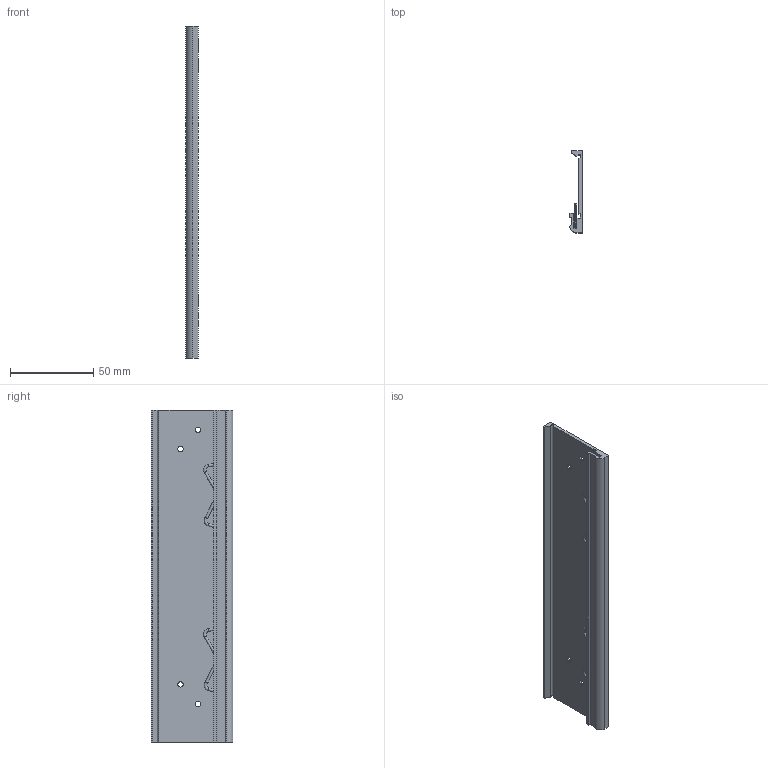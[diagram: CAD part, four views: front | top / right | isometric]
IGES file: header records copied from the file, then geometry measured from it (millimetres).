
Start section:  PTC IGES file: din-rail-8slot.igs
Global section: file name: din-rail-8slot.igs; native system: Creo Parametric by Parametric Technology Corporation; preprocessor: 2014000; author: dkendric; organization: Unknown; date: 20140617.112717; units: inch
Bounding box: 7.49 x 49.33 x 199.9 mm (x, y, z)
Surface area: 29370.8 mm2 (no closed solid volume)
Topology: 0 solids, 0 shells, 98 faces, 464 edges, 464 vertices
Faces by surface type: revolution 67, bspline 31
